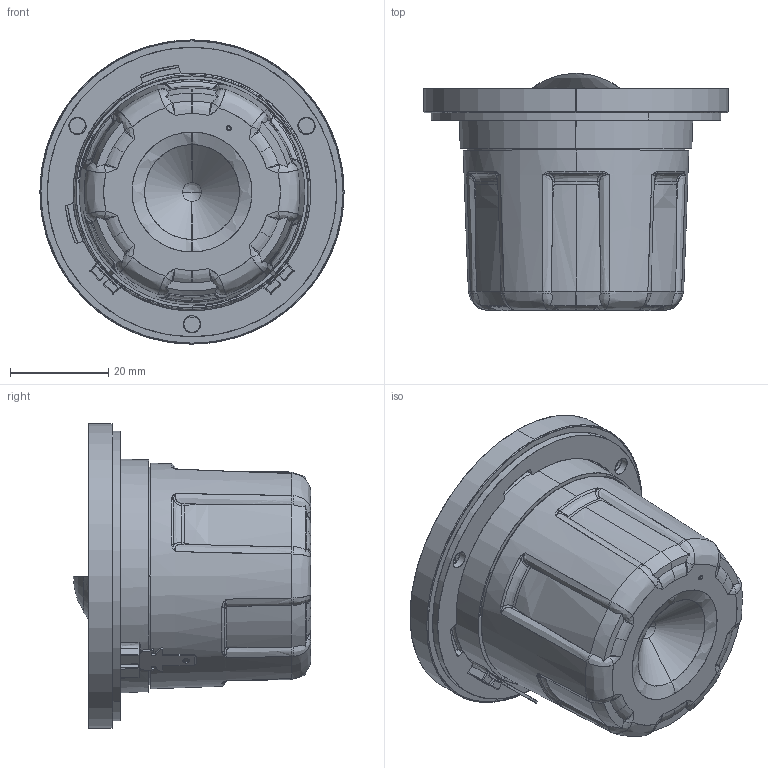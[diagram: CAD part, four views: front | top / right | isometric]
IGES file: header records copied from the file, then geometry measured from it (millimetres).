
Start section: SolidWorks IGES file using analytic representation for surfaces
Global section: file name: W:\TT\D30\D3004-602000\D3004-602200.IGS; native system: SolidWorks 2022; preprocessor: SolidWorks 2022; author: jsn; date: 230810.103223; units: millimetre
Bounding box: 62 x 48.37 x 62 mm (x, y, z)
Surface area: 16882 mm2 (no closed solid volume)
Topology: 0 solids, 0 shells, 618 faces, 6330 edges, 6280 vertices
Faces by surface type: bspline 395, revolution 223
